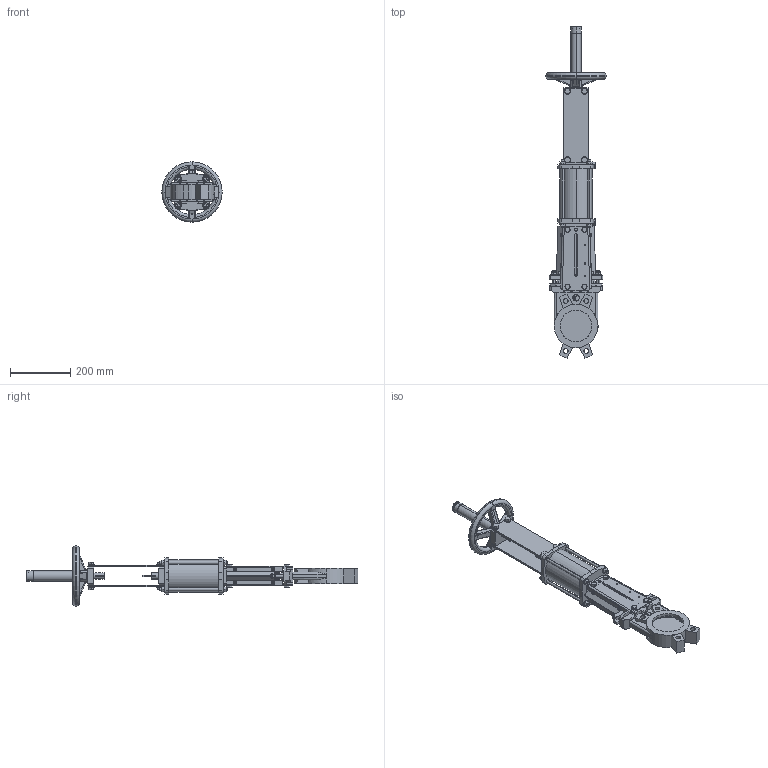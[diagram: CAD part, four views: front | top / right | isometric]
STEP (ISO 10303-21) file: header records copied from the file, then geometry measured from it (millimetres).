
FILE_DESCRIPTION (( 'STEP AP203' ), '1' );
FILE_NAME ('VG D DN100.STEP', '2010-01-27T05:51:02', ( 'farex' ), ( '' ), 'SwSTEP 2.0', 'SolidWorks 2009', '' );
FILE_SCHEMA (( 'CONFIG_CONTROL_DESIGN' ));
Length unit declared in the file: millimetre
Products named in the file (1): VG D DN100
Bounding box: 200 x 1102.66 x 200 mm (x, y, z)
Volume: 3053372.2 mm3; surface area: 745314.7 mm2
Topology: 2 solids, 27 shells, 1341 faces, 3403 edges, 2208 vertices
Faces by surface type: plane 718, cylinder 388, cone 130, bspline 60, torus 45
Entity records: 45039 total; most frequent: CARTESIAN_POINT 12743, ORIENTED_EDGE 6806, DIRECTION 6510, EDGE_CURVE 3403, AXIS2_PLACEMENT_3D 2291, VERTEX_POINT 2208, VECTOR 1928, LINE 1928
